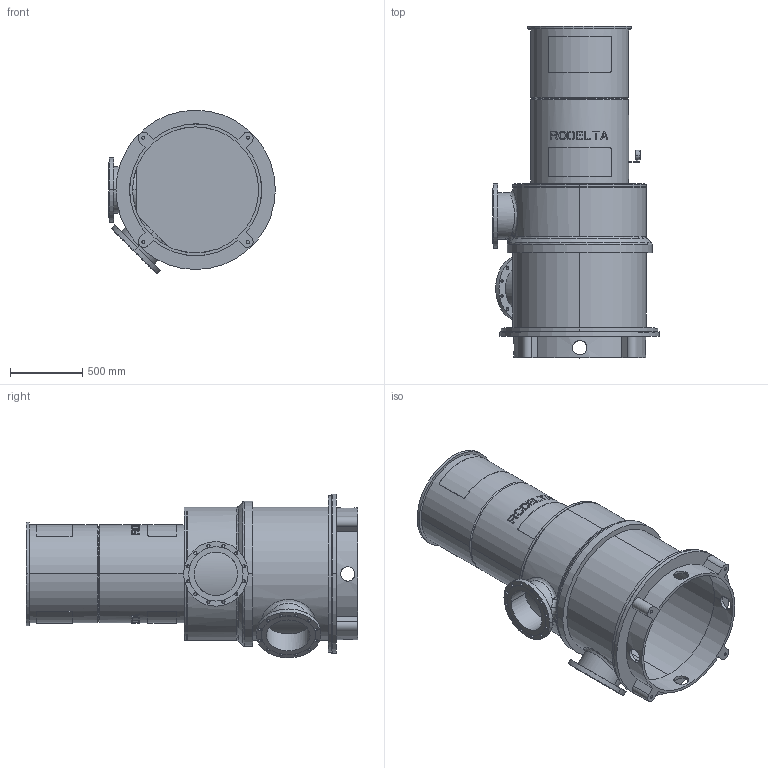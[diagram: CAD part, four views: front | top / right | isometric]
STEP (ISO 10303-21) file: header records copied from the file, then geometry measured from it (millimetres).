
FILE_DESCRIPTION((''),'2;1');
FILE_NAME('LS12_1TR_0GR_UPTO_90KW','2023-08-25T',('Lyritlocal'),(''),'PRO/ENGINEER BY PARAMETRIC TECHNOLOGY CORPORATION, 2016360','PRO/ENGINEER BY PARAMETRIC TECHNOLOGY CORPORATION, 2016360','');
FILE_SCHEMA(('CONFIG_CONTROL_DESIGN'));
Length unit declared in the file: millimetre
Products named in the file (1): LS12_1TR_0GR_UPTO_90KW
Bounding box: 1150 x 2290 x 1129.47 mm (x, y, z)
Volume: 119085497.7 mm3; surface area: 15391270.5 mm2
Topology: 3 solids, 7 shells, 559 faces, 1467 edges, 971 vertices
Faces by surface type: plane 335, cylinder 198, cone 13, bspline 10, torus 3
Entity records: 18762 total; most frequent: CARTESIAN_POINT 5164, ORIENTED_EDGE 2918, DIRECTION 2627, EDGE_CURVE 1467, AXIS2_PLACEMENT_3D 998, VERTEX_POINT 971, EDGE_LOOP 676, VECTOR 631
